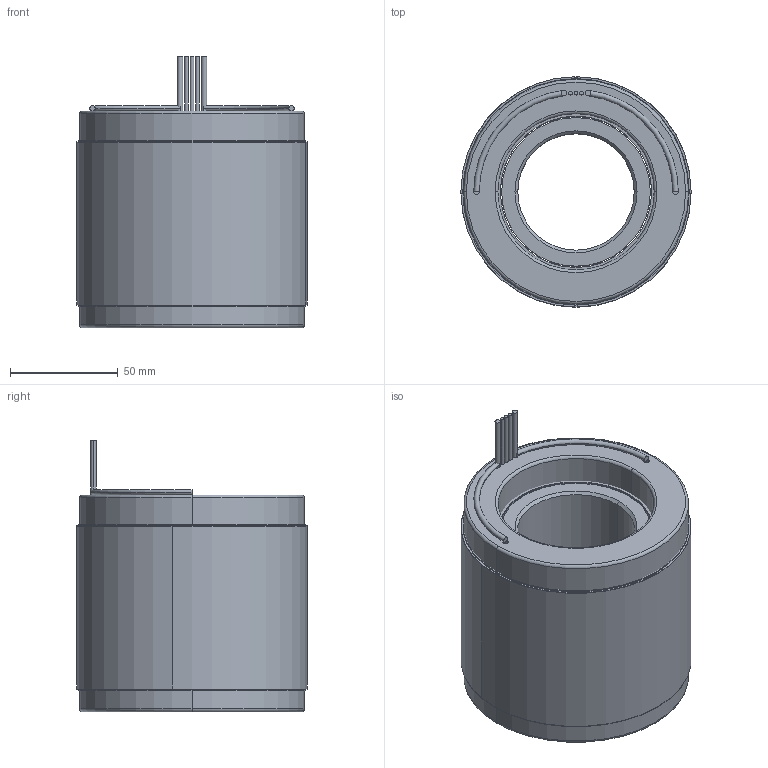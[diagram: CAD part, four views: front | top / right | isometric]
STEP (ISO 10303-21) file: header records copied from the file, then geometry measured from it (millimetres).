
FILE_DESCRIPTION (( 'STEP AP214' ), '1' );
FILE_NAME ('6100329-04.STEP', '2019-10-23T21:33:33', ( '' ), ( '' ), 'SwSTEP 2.0', 'SolidWorks 2016', '' );
FILE_SCHEMA (( 'AUTOMOTIVE_DESIGN' ));
Length unit declared in the file: millimetre
Products named in the file (10): 6100329-04; 4400065-00; 4500536-XX_4500536-04; 4250350-XX_4250350-04; 4150160-XX_4150160-04; 4450153-XX_4450153-04; COMP4500536-XX (COIL)_COMP4500536-04 (COIL); 4600460-00
Assembly tree (10 placements, depth 4):
  6100329-04
    4500536-XX_4500536-04
      4450153-XX_4450153-04
        4450153-XX_4450153-04
        4400065-00
        4400065-00
        4600460-00  x2
      COMP4500536-XX (COIL)_COMP4500536-04 (COIL)
    4250350-XX_4250350-04
      4150160-XX_4150160-04
Bounding box: 106.68 x 106.68 x 125.73 mm (x, y, z)
Volume: 941494.1 mm3; surface area: 190322.9 mm2
Topology: 14 solids, 14 shells, 94 faces, 180 edges, 116 vertices
Faces by surface type: cylinder 48, plane 30, torus 12, cone 4
Entity records: 2735 total; most frequent: DIRECTION 496, CARTESIAN_POINT 380, ORIENTED_EDGE 336, AXIS2_PLACEMENT_3D 224, EDGE_CURVE 168, CIRCLE 120, VERTEX_POINT 108, EDGE_LOOP 102
